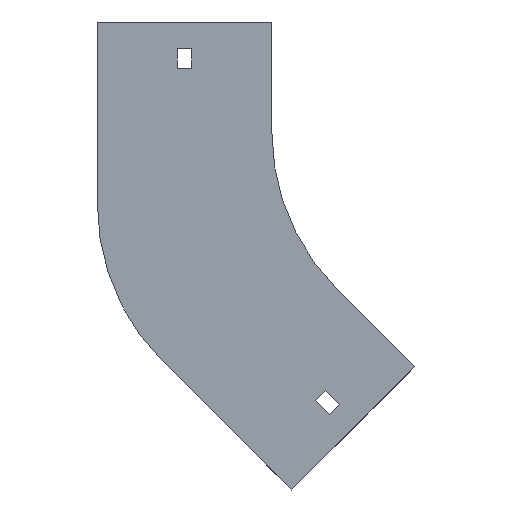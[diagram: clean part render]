
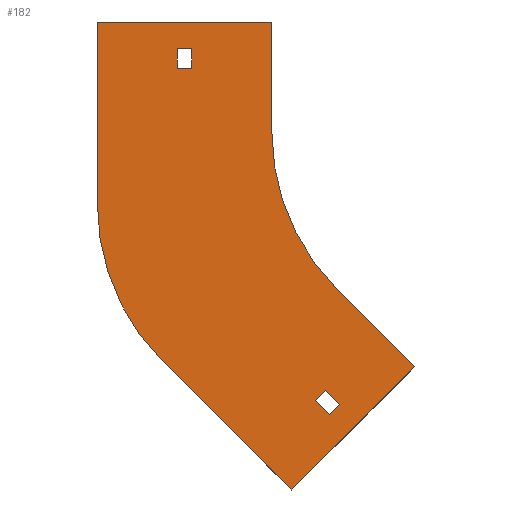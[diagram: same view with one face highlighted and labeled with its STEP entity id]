
A CAD part, front view. The second image highlights one B-rep face of the part: STEP entity #182.
In plain terms, the highlighted planar face has unit normal (0, -1, 0).
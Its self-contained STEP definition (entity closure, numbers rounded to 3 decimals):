
#4 = VECTOR ( 'NONE', #249, 1000. ) ;
#7 = CARTESIAN_POINT ( 'NONE',  ( -142.75, 0., 38. ) ) ;
#13 = DIRECTION ( 'NONE',  ( 1., 0., 0. ) ) ;
#17 = VERTEX_POINT ( 'NONE', #1342 ) ;
#25 = ORIENTED_EDGE ( 'NONE', *, *, #44, .F. ) ;
#27 = ORIENTED_EDGE ( 'NONE', *, *, #955, .F. ) ;
#29 = VERTEX_POINT ( 'NONE', #373 ) ;
#30 = LINE ( 'NONE', #773, #4 ) ;
#31 = CARTESIAN_POINT ( 'NONE',  ( -136.25, 0., 38. ) ) ;
#43 = VECTOR ( 'NONE', #1222, 1000. ) ;
#44 = EDGE_CURVE ( 'NONE', #29, #919, #507, .T. ) ;
#71 = CARTESIAN_POINT ( 'NONE',  ( -142.75, 0., 29. ) ) ;
#83 = ORIENTED_EDGE ( 'NONE', *, *, #272, .F. ) ;
#86 = EDGE_CURVE ( 'NONE', #1329, #162, #509, .T. ) ;
#140 = ORIENTED_EDGE ( 'NONE', *, *, #533, .T. ) ;
#161 = VECTOR ( 'NONE', #559, 1000. ) ;
#162 = VERTEX_POINT ( 'NONE', #429 ) ;
#165 = LINE ( 'NONE', #1378, #256 ) ;
#169 = LINE ( 'NONE', #264, #43 ) ;
#182 = ADVANCED_FACE ( 'NONE', ( #930, #859, #949 ), #1172, .T. ) ;
#187 = VERTEX_POINT ( 'NONE', #530 ) ;
#188 = LINE ( 'NONE', #1349, #694 ) ;
#249 = DIRECTION ( 'NONE',  ( 0.707, 0., -0.707 ) ) ;
#256 = VECTOR ( 'NONE', #307, 1000. ) ;
#264 = CARTESIAN_POINT ( 'NONE',  ( -80.433, 0., -121.446 ) ) ;
#272 = EDGE_CURVE ( 'NONE', #1226, #769, #1080, .T. ) ;
#274 = EDGE_LOOP ( 'NONE', ( #1053, #710, #140, #840 ) ) ;
#307 = DIRECTION ( 'NONE',  ( -0.707, 0., -0.707 ) ) ;
#338 = DIRECTION ( 'NONE',  ( 1., 0., 0. ) ) ;
#355 = ORIENTED_EDGE ( 'NONE', *, *, #708, .F. ) ;
#373 = CARTESIAN_POINT ( 'NONE',  ( -149.711, 0., -103.434 ) ) ;
#374 = ORIENTED_EDGE ( 'NONE', *, *, #983, .F. ) ;
#402 = LINE ( 'NONE', #1375, #435 ) ;
#405 = CARTESIAN_POINT ( 'NONE',  ( -179., 0., -32.723 ) ) ;
#412 = DIRECTION ( 'NONE',  ( 0., 0., -1. ) ) ;
#413 = DIRECTION ( 'NONE',  ( 0., 0., -1. ) ) ;
#416 = VERTEX_POINT ( 'NONE', #1008 ) ;
#417 = VERTEX_POINT ( 'NONE', #31 ) ;
#418 = AXIS2_PLACEMENT_3D ( 'NONE', #743, #1376, #413 ) ;
#429 = CARTESIAN_POINT ( 'NONE',  ( -142.75, 0., 29. ) ) ;
#435 = VECTOR ( 'NONE', #412, 1000. ) ;
#448 = AXIS2_PLACEMENT_3D ( 'NONE', #911, #1235, #598 ) ;
#507 = CIRCLE ( 'NONE', #617, 100. ) ;
#509 = LINE ( 'NONE', #71, #1257 ) ;
#530 = CARTESIAN_POINT ( 'NONE',  ( -35.355, 0., -106.066 ) ) ;
#533 = EDGE_CURVE ( 'NONE', #417, #1329, #853, .T. ) ;
#543 = DIRECTION ( 'NONE',  ( 0., 0., 1. ) ) ;
#553 = LINE ( 'NONE', #1098, #1139 ) ;
#559 = DIRECTION ( 'NONE',  ( -0.707, 0., -0.707 ) ) ;
#563 = EDGE_CURVE ( 'NONE', #1358, #17, #1210, .T. ) ;
#570 = EDGE_CURVE ( 'NONE', #655, #29, #553, .T. ) ;
#572 = LINE ( 'NONE', #851, #1327 ) ;
#574 = LINE ( 'NONE', #7, #1097 ) ;
#588 = VECTOR ( 'NONE', #543, 1000. ) ;
#598 = DIRECTION ( 'NONE',  ( 0., 0., -1. ) ) ;
#604 = EDGE_CURVE ( 'NONE', #416, #417, #574, .T. ) ;
#605 = ORIENTED_EDGE ( 'NONE', *, *, #1340, .F. ) ;
#606 = DIRECTION ( 'NONE',  ( 0., 0., 1. ) ) ;
#613 = DIRECTION ( 'NONE',  ( 0., 1., 0. ) ) ;
#614 = DIRECTION ( 'NONE',  ( -0.707, 0., 0.707 ) ) ;
#617 = AXIS2_PLACEMENT_3D ( 'NONE', #1150, #613, #811 ) ;
#622 = VECTOR ( 'NONE', #654, 1000. ) ;
#627 = CARTESIAN_POINT ( 'NONE',  ( -136.25, 0., 29. ) ) ;
#648 = CARTESIAN_POINT ( 'NONE',  ( -142.75, 0., 29. ) ) ;
#654 = DIRECTION ( 'NONE',  ( 0., 0., -1. ) ) ;
#655 = VERTEX_POINT ( 'NONE', #766 ) ;
#694 = VECTOR ( 'NONE', #614, 1000. ) ;
#695 = VERTEX_POINT ( 'NONE', #703 ) ;
#696 = ORIENTED_EDGE ( 'NONE', *, *, #563, .F. ) ;
#703 = CARTESIAN_POINT ( 'NONE',  ( -100., 0., 50. ) ) ;
#708 = EDGE_CURVE ( 'NONE', #17, #1226, #169, .T. ) ;
#710 = ORIENTED_EDGE ( 'NONE', *, *, #604, .T. ) ;
#716 = ORIENTED_EDGE ( 'NONE', *, *, #1395, .F. ) ;
#719 = EDGE_CURVE ( 'NONE', #919, #868, #1140, .T. ) ;
#735 = CARTESIAN_POINT ( 'NONE',  ( -179., 0., 50. ) ) ;
#743 = CARTESIAN_POINT ( 'NONE',  ( 0., 0., 0. ) ) ;
#758 = CARTESIAN_POINT ( 'NONE',  ( -70.711, 0., -70.711 ) ) ;
#766 = CARTESIAN_POINT ( 'NONE',  ( -91.217, 0., -161.927 ) ) ;
#769 = VERTEX_POINT ( 'NONE', #1311 ) ;
#773 = CARTESIAN_POINT ( 'NONE',  ( -70.711, 0., -70.711 ) ) ;
#797 = VERTEX_POINT ( 'NONE', #758 ) ;
#811 = DIRECTION ( 'NONE',  ( 0., 0., 1. ) ) ;
#833 = ORIENTED_EDGE ( 'NONE', *, *, #570, .F. ) ;
#840 = ORIENTED_EDGE ( 'NONE', *, *, #86, .T. ) ;
#851 = CARTESIAN_POINT ( 'NONE',  ( -179., 0., 50. ) ) ;
#853 = LINE ( 'NONE', #627, #622 ) ;
#859 = FACE_OUTER_BOUND ( 'NONE', #1264, .T. ) ;
#864 = CARTESIAN_POINT ( 'NONE',  ( -74.069, 0., -127.81 ) ) ;
#868 = VERTEX_POINT ( 'NONE', #735 ) ;
#876 = CARTESIAN_POINT ( 'NONE',  ( -75.837, 0., -116.849 ) ) ;
#877 = CARTESIAN_POINT ( 'NONE',  ( -80.433, 0., -121.446 ) ) ;
#885 = VECTOR ( 'NONE', #606, 1000. ) ;
#896 = CARTESIAN_POINT ( 'NONE',  ( -179., 0., -32.723 ) ) ;
#911 = CARTESIAN_POINT ( 'NONE',  ( 0., 0., 0. ) ) ;
#919 = VERTEX_POINT ( 'NONE', #405 ) ;
#924 = EDGE_CURVE ( 'NONE', #769, #1358, #188, .T. ) ;
#930 = FACE_BOUND ( 'NONE', #274, .T. ) ;
#949 = FACE_BOUND ( 'NONE', #1371, .T. ) ;
#955 = EDGE_CURVE ( 'NONE', #187, #655, #165, .T. ) ;
#968 = EDGE_CURVE ( 'NONE', #1212, #797, #1295, .T. ) ;
#983 = EDGE_CURVE ( 'NONE', #797, #187, #30, .T. ) ;
#993 = ORIENTED_EDGE ( 'NONE', *, *, #968, .F. ) ;
#1008 = CARTESIAN_POINT ( 'NONE',  ( -142.75, 0., 38. ) ) ;
#1047 = EDGE_CURVE ( 'NONE', #162, #416, #1396, .T. ) ;
#1053 = ORIENTED_EDGE ( 'NONE', *, *, #1047, .T. ) ;
#1061 = ORIENTED_EDGE ( 'NONE', *, *, #719, .F. ) ;
#1078 = VECTOR ( 'NONE', #1191, 1000. ) ;
#1080 = LINE ( 'NONE', #864, #1078 ) ;
#1097 = VECTOR ( 'NONE', #13, 1000. ) ;
#1098 = CARTESIAN_POINT ( 'NONE',  ( -91.217, 0., -161.927 ) ) ;
#1126 = CARTESIAN_POINT ( 'NONE',  ( -100., 0., 0. ) ) ;
#1139 = VECTOR ( 'NONE', #1299, 1000. ) ;
#1140 = LINE ( 'NONE', #896, #885 ) ;
#1150 = CARTESIAN_POINT ( 'NONE',  ( -79., 0., -32.723 ) ) ;
#1155 = CARTESIAN_POINT ( 'NONE',  ( -74.069, 0., -127.81 ) ) ;
#1172 = PLANE ( 'NONE',  #418 ) ;
#1189 = ORIENTED_EDGE ( 'NONE', *, *, #924, .F. ) ;
#1191 = DIRECTION ( 'NONE',  ( 0.707, 0., 0.707 ) ) ;
#1210 = LINE ( 'NONE', #877, #161 ) ;
#1212 = VERTEX_POINT ( 'NONE', #1126 ) ;
#1222 = DIRECTION ( 'NONE',  ( 0.707, 0., -0.707 ) ) ;
#1226 = VERTEX_POINT ( 'NONE', #1155 ) ;
#1235 = DIRECTION ( 'NONE',  ( 0., -1., 0. ) ) ;
#1257 = VECTOR ( 'NONE', #1268, 1000. ) ;
#1264 = EDGE_LOOP ( 'NONE', ( #716, #1061, #25, #833, #27, #374, #993, #605 ) ) ;
#1268 = DIRECTION ( 'NONE',  ( -1., 0., 0. ) ) ;
#1295 = CIRCLE ( 'NONE', #448, 100. ) ;
#1299 = DIRECTION ( 'NONE',  ( -0.707, 0., 0.707 ) ) ;
#1311 = CARTESIAN_POINT ( 'NONE',  ( -69.473, 0., -123.213 ) ) ;
#1327 = VECTOR ( 'NONE', #338, 1000. ) ;
#1329 = VERTEX_POINT ( 'NONE', #1355 ) ;
#1340 = EDGE_CURVE ( 'NONE', #695, #1212, #402, .T. ) ;
#1342 = CARTESIAN_POINT ( 'NONE',  ( -80.433, 0., -121.446 ) ) ;
#1349 = CARTESIAN_POINT ( 'NONE',  ( -75.837, 0., -116.849 ) ) ;
#1355 = CARTESIAN_POINT ( 'NONE',  ( -136.25, 0., 29. ) ) ;
#1358 = VERTEX_POINT ( 'NONE', #876 ) ;
#1371 = EDGE_LOOP ( 'NONE', ( #83, #355, #696, #1189 ) ) ;
#1375 = CARTESIAN_POINT ( 'NONE',  ( -100., 0., 50. ) ) ;
#1376 = DIRECTION ( 'NONE',  ( 0., -1., 0. ) ) ;
#1378 = CARTESIAN_POINT ( 'NONE',  ( -35.355, 0., -106.066 ) ) ;
#1395 = EDGE_CURVE ( 'NONE', #868, #695, #572, .T. ) ;
#1396 = LINE ( 'NONE', #648, #588 ) ;
